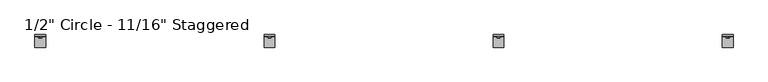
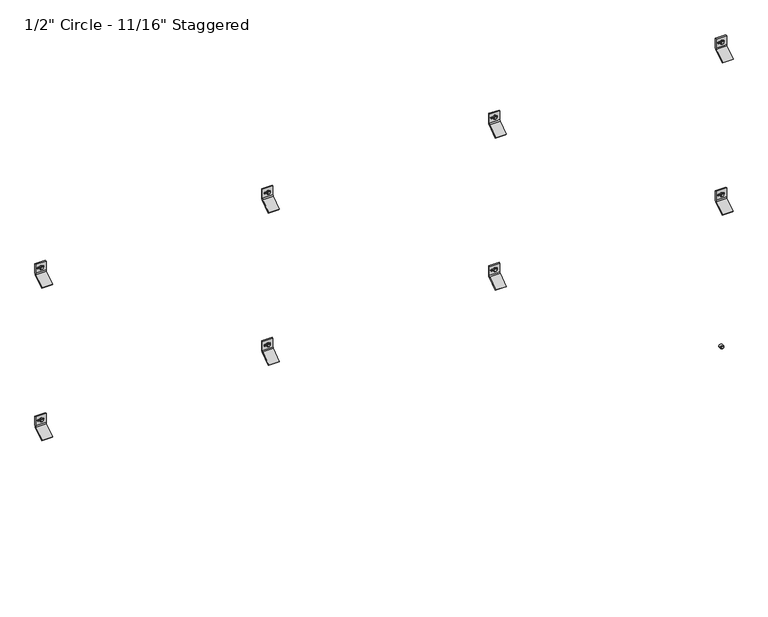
"""IFC4 building model written with IfcOpenShell, lengths in millimetres: plate geometry."""

from ifc_helpers import new_model, si_unit, point, frame, frame_2d, origin, place, context, project, spatial, polyline, circle_curve, trimmed, segment, composite_curve, outline, extrude, source, transform, mapped, element, save
from ifc_brep_helpers import plane_surface, cylinder_surface, revolved_surface, advanced_brep


def plate_a66a7d0d(model_context):
    return source(origin(), model_context, "Body", "SolidModel", [
        extrude(outline(polyline([(1923.7554341, 1230.0570034), (1919.4097216, 1232.5660017), (1919.4097216, 1237.5839983), (1923.7554341, 1240.0929966), (1928.1011466, 1237.5839983), (1928.1011466, 1232.5660017), (1923.7554341, 1230.0570034)])), frame((0.0, -58.7607779, 0.0), z_axis=(0.0, 1.0, 0.0), x_axis=(0.0, 0.0, 1.0)), (0.0, 0.0, 1.0), 11.1357779),
        extrude(outline(composite_curve([segment(trimmed(circle_curve(frame_2d((1923.8487411, 1235.075)), 6.35), [point((1923.8487411, 1241.425))], [point((1923.8487411, 1228.725))], False, "CARTESIAN"), True, "CONTINUOUS"), segment(trimmed(circle_curve(frame_2d((1923.8487411, 1235.075)), 6.35), [point((1923.8487411, 1228.725))], [point((1923.8487411, 1241.425))], False, "CARTESIAN"), True, "CONTINUOUS")], self_intersect=False)), frame((0.0, -57.0817743, 0.0), z_axis=(0.0, 1.0, 0.0), x_axis=(0.0, 0.0, 1.0)), (0.0, 0.0, 1.0), 9.4567743),
        advanced_brep(
        [(1216.025, -47.625, 1906.606122), (1216.025, -51.2819443, 1898.9440896), (1216.025, -89.5163624, 1872.1720618), (1216.025, -92.9330442, 1875.5887436), (1216.025, -54.3526876, 1902.6030001), (1216.025, -52.4002, 1906.6061929), (1216.025, -52.4002, 1940.7988072), (1216.025, -47.625, 1940.7988072), (1254.125, -47.625, 1906.606122), (1254.125, -47.625, 1940.7988072), (1254.125, -52.4002, 1940.7988072), (1254.125, -52.4002, 1906.6061929), (1254.125, -54.3526876, 1902.6030001), (1254.125, -92.9330442, 1875.5887436), (1254.125, -89.5163624, 1872.1720618), (1254.125, -51.2819443, 1898.9440896), (1241.8161889, -52.4002, 1926.753591), (1241.8161889, -52.4002, 1920.403591), (1225.5883287, -52.4002, 1920.403591), (1225.5883287, -52.4002, 1926.753591), (1241.8161889, -47.625, 1920.403591), (1241.8161889, -47.625, 1926.753591), (1225.5883287, -47.625, 1926.753591), (1225.5883287, -47.625, 1920.403591)],
        [
            (0, 1, circle_curve(frame((1216.025, -57.4802202, 1906.606122), z_axis=(-1.0, 0.0, 0.0), x_axis=(0.0, -1.0, 0.0)), 9.8552202)),
            (1, 2),
            (2, 3),
            (3, 4),
            (4, 5, circle_curve(frame((1216.025, -57.4803246, 1906.6061929), z_axis=(1.0, 0.0, 0.0), x_axis=(0.0, -1.0, 0.0)), 5.0801246)),
            (5, 6),
            (6, 7),
            (7, 0),
            (8, 9),
            (9, 10),
            (10, 11),
            (11, 12, circle_curve(frame((1254.125, -57.4803246, 1906.6061929), z_axis=(-1.0, 0.0, 0.0), x_axis=(0.0, -1.0, 0.0)), 5.0801246)),
            (12, 13),
            (13, 14),
            (14, 15),
            (15, 8, circle_curve(frame((1254.125, -57.4802202, 1906.606122), z_axis=(1.0, 0.0, 0.0), x_axis=(0.0, -1.0, 0.0)), 9.8552202)),
            (4, 12),
            (11, 5),
            (10, 6),
            (16, 17, circle_curve(frame((1241.8161889, -52.4002, 1923.578591), z_axis=(0.0, 1.0, 0.0), x_axis=(0.0, 0.0, -1.0)), 3.175)),
            (17, 18),
            (18, 19, circle_curve(frame((1225.5883287, -52.4002, 1923.578591), z_axis=(0.0, 1.0, 0.0), x_axis=(0.0, 0.0, -1.0)), 3.175)),
            (19, 16),
            (9, 7),
            (8, 0),
            (20, 21, circle_curve(frame((1241.8161889, -47.625, 1923.578591), z_axis=(0.0, -1.0, 0.0), x_axis=(0.0, 0.0, -1.0)), 3.175)),
            (21, 22),
            (22, 23, circle_curve(frame((1225.5883287, -47.625, 1923.578591), z_axis=(0.0, -1.0, 0.0), x_axis=(0.0, 0.0, -1.0)), 3.175)),
            (23, 20),
            (15, 1),
            (20, 17),
            (16, 21),
            (19, 22),
            (18, 23),
            (14, 2),
            (13, 3),
        ],
        [
            plane_surface(frame((1216.025, -67.3354404, 1906.606122), z_axis=(-1.0, 0.0, 0.0), x_axis=(0.0, 0.0, 1.0))),
            plane_surface(frame((1254.125, -67.3354404, 1906.606122), z_axis=(1.0, 0.0, 0.0), x_axis=(0.0, 0.0, -1.0))),
            revolved_surface(polyline([(1254.125, -62.5604492, 1906.6061929), (1216.025, -62.5604492, 1906.6061929)]), (1254.125, -57.4803246, 1906.6061929), (1.0, 0.0, 0.0)),
            plane_surface(frame((1216.025, -52.4002, 1906.6061929), z_axis=(0.0, -1.0, 0.0), x_axis=(1.0, 0.0, 0.0))),
            plane_surface(frame((1216.025, -52.4002, 1940.7988072), z_axis=(0.0, 0.0, 1.0), x_axis=(1.0, 0.0, 0.0))),
            plane_surface(frame((1216.025, -47.625, 1940.7988072), z_axis=(0.0, 1.0, 6.99569853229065e-12), x_axis=(1.0, 0.0, 0.0))),
            cylinder_surface(frame((1254.125, -57.4802202, 1906.606122), z_axis=(-1.0, 0.0, 0.0), x_axis=(0.0, -1.0, 0.0)), 9.8552202),
            revolved_surface(polyline([(1241.8161889, -52.4002, 1920.403591), (1241.8161889, -47.625, 1920.403591)]), (1241.8161889, -25.6669948, 1923.578591), (0.0, -1.0, 0.0)),
            plane_surface(frame((1241.8161889, -86.677982, 1926.753591), z_axis=(0.0, 0.0, -1.0), x_axis=(0.0, 1.0, 0.0))),
            revolved_surface(polyline([(1225.5883287, -52.4002, 1920.403591), (1225.5883287, -47.625, 1920.403591)]), (1225.5883287, -25.6669948, 1923.578591), (0.0, -1.0, 0.0)),
            plane_surface(frame((1225.5883287, -86.677982, 1920.403591), z_axis=(-2.7237720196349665e-11, 0.0, 1.0), x_axis=(0.0, 1.0, 0.0))),
            plane_surface(frame((1216.025, -51.2819443, 1898.9440896), z_axis=(0.0, 0.5735764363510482, -0.8191520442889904), x_axis=(1.0, 0.0, 0.0))),
            plane_surface(frame((1216.025, -89.5163624, 1872.1720618), z_axis=(0.0, -0.7071067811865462, -0.7071067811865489), x_axis=(1.0, 0.0, 0.0))),
            plane_surface(frame((1216.025, -92.9330442, 1875.5887436), z_axis=(0.0, -0.5735764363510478, 0.8191520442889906), x_axis=(1.0, 0.0, 0.0))),
        ],
        [
            (0, [[1, 2, 3, 4, 5, 6, 7, 8]]),
            (1, [[9, 10, 11, 12, 13, 14, 15, 16]]),
            (2, [[-5, 17, -12, 18]]),
            (3, [[-6, -18, -11, 19], [20, 21, 22, 23]]),
            (4, [[-7, -19, -10, 24]]),
            (5, [[-8, -24, -9, 25], [26, 27, 28, 29]]),
            (6, [[-1, -25, -16, 30]]),
            (7, [[31, -20, 32, -26]]),
            (8, [[-32, -23, 33, -27]]),
            (9, [[-33, -22, 34, -28]]),
            (10, [[-31, -29, -34, -21]]),
            (11, [[-2, -30, -15, 35]]),
            (12, [[-3, -35, -14, 36]]),
            (13, [[-4, -36, -13, -17]]),
        ],
    ),
        extrude(outline(polyline([(1923.7554341, 406.6736701), (1919.4097216, 409.1826684), (1919.4097216, 414.200665), (1923.7554341, 416.7096632), (1928.1011466, 414.200665), (1928.1011466, 409.1826684), (1923.7554341, 406.6736701)])), frame((0.0, -58.7607779, 0.0), z_axis=(0.0, 1.0, 0.0), x_axis=(0.0, 0.0, 1.0)), (0.0, 0.0, 1.0), 11.1357779),
        extrude(outline(composite_curve([segment(trimmed(circle_curve(frame_2d((1923.8487411, 411.6916667)), 6.35), [point((1923.8487411, 418.0416667))], [point((1923.8487411, 405.3416667))], False, "CARTESIAN"), True, "CONTINUOUS"), segment(trimmed(circle_curve(frame_2d((1923.8487411, 411.6916667)), 6.35), [point((1923.8487411, 405.3416667))], [point((1923.8487411, 418.0416667))], False, "CARTESIAN"), True, "CONTINUOUS")], self_intersect=False)), frame((0.0, -57.0817743, 0.0), z_axis=(0.0, 1.0, 0.0), x_axis=(0.0, 0.0, 1.0)), (0.0, 0.0, 1.0), 9.4567743),
        advanced_brep(
        [(392.6416667, -47.625, 1906.606122), (392.6416667, -51.2819443, 1898.9440896), (392.6416667, -89.5163624, 1872.1720618), (392.6416667, -92.9330442, 1875.5887436), (392.6416667, -54.3526876, 1902.6030001), (392.6416667, -52.4002, 1906.6061929), (392.6416667, -52.4002, 1940.7988072), (392.6416667, -47.625, 1940.7988072), (430.7416667, -47.625, 1906.606122), (430.7416667, -47.625, 1940.7988072), (430.7416667, -52.4002, 1940.7988072), (430.7416667, -52.4002, 1906.6061929), (430.7416667, -54.3526876, 1902.6030001), (430.7416667, -92.9330442, 1875.5887436), (430.7416667, -89.5163624, 1872.1720618), (430.7416667, -51.2819443, 1898.9440896), (418.4328556, -52.4002, 1926.753591), (418.4328556, -52.4002, 1920.403591), (402.2049954, -52.4002, 1920.403591), (402.2049954, -52.4002, 1926.753591), (418.4328556, -47.625, 1920.403591), (418.4328556, -47.625, 1926.753591), (402.2049954, -47.625, 1926.753591), (402.2049954, -47.625, 1920.403591)],
        [
            (0, 1, circle_curve(frame((392.6416667, -57.4802202, 1906.606122), z_axis=(-1.0, 0.0, 0.0), x_axis=(0.0, -1.0, 0.0)), 9.8552202)),
            (1, 2),
            (2, 3),
            (3, 4),
            (4, 5, circle_curve(frame((392.6416667, -57.4803246, 1906.6061929), z_axis=(1.0, 0.0, 0.0), x_axis=(0.0, -1.0, 0.0)), 5.0801246)),
            (5, 6),
            (6, 7),
            (7, 0),
            (8, 9),
            (9, 10),
            (10, 11),
            (11, 12, circle_curve(frame((430.7416667, -57.4803246, 1906.6061929), z_axis=(-1.0, 0.0, 0.0), x_axis=(0.0, -1.0, 0.0)), 5.0801246)),
            (12, 13),
            (13, 14),
            (14, 15),
            (15, 8, circle_curve(frame((430.7416667, -57.4802202, 1906.606122), z_axis=(1.0, 0.0, 0.0), x_axis=(0.0, -1.0, 0.0)), 9.8552202)),
            (4, 12),
            (11, 5),
            (10, 6),
            (16, 17, circle_curve(frame((418.4328556, -52.4002, 1923.578591), z_axis=(0.0, 1.0, 0.0), x_axis=(0.0, 0.0, -1.0)), 3.175)),
            (17, 18),
            (18, 19, circle_curve(frame((402.2049954, -52.4002, 1923.578591), z_axis=(0.0, 1.0, 0.0), x_axis=(0.0, 0.0, -1.0)), 3.175)),
            (19, 16),
            (9, 7),
            (8, 0),
            (20, 21, circle_curve(frame((418.4328556, -47.625, 1923.578591), z_axis=(0.0, -1.0, 0.0), x_axis=(0.0, 0.0, -1.0)), 3.175)),
            (21, 22),
            (22, 23, circle_curve(frame((402.2049954, -47.625, 1923.578591), z_axis=(0.0, -1.0, 0.0), x_axis=(0.0, 0.0, -1.0)), 3.175)),
            (23, 20),
            (15, 1),
            (20, 17),
            (16, 21),
            (19, 22),
            (18, 23),
            (14, 2),
            (13, 3),
        ],
        [
            plane_surface(frame((392.6416667, -67.3354404, 1906.606122), z_axis=(-1.0, 0.0, 0.0), x_axis=(0.0, 0.0, 1.0))),
            plane_surface(frame((430.7416667, -67.3354404, 1906.606122), z_axis=(1.0, 0.0, 0.0), x_axis=(0.0, 0.0, -1.0))),
            revolved_surface(polyline([(430.7416667, -62.5604492, 1906.6061929), (392.6416667, -62.5604492, 1906.6061929)]), (430.7416667, -57.4803246, 1906.6061929), (1.0, 0.0, 0.0)),
            plane_surface(frame((392.6416667, -52.4002, 1906.6061929), z_axis=(0.0, -1.0, 0.0), x_axis=(1.0, 0.0, 0.0))),
            plane_surface(frame((392.6416667, -52.4002, 1940.7988072), z_axis=(0.0, 0.0, 1.0), x_axis=(1.0, 0.0, 0.0))),
            plane_surface(frame((392.6416667, -47.625, 1940.7988072), z_axis=(0.0, 1.0, 6.99569853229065e-12), x_axis=(1.0, 0.0, 0.0))),
            cylinder_surface(frame((430.7416667, -57.4802202, 1906.606122), z_axis=(-1.0, 0.0, 0.0), x_axis=(0.0, -1.0, 0.0)), 9.8552202),
            revolved_surface(polyline([(418.4328556, -52.4002, 1920.403591), (418.4328556, -47.625, 1920.403591)]), (418.4328556, -25.6669948, 1923.578591), (0.0, -1.0, 0.0)),
            plane_surface(frame((418.4328556, -86.677982, 1926.753591), z_axis=(0.0, 0.0, -1.0), x_axis=(0.0, 1.0, 0.0))),
            revolved_surface(polyline([(402.2049954, -52.4002, 1920.403591), (402.2049954, -47.625, 1920.403591)]), (402.2049954, -25.6669948, 1923.578591), (0.0, -1.0, 0.0)),
            plane_surface(frame((402.2049954, -86.677982, 1920.403591), z_axis=(-2.7237720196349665e-11, 0.0, 1.0), x_axis=(0.0, 1.0, 0.0))),
            plane_surface(frame((392.6416667, -51.2819443, 1898.9440896), z_axis=(0.0, 0.5735764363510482, -0.8191520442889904), x_axis=(1.0, 0.0, 0.0))),
            plane_surface(frame((392.6416667, -89.5163624, 1872.1720618), z_axis=(0.0, -0.7071067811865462, -0.7071067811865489), x_axis=(1.0, 0.0, 0.0))),
            plane_surface(frame((392.6416667, -92.9330442, 1875.5887436), z_axis=(0.0, -0.5735764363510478, 0.8191520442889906), x_axis=(1.0, 0.0, 0.0))),
        ],
        [
            (0, [[1, 2, 3, 4, 5, 6, 7, 8]]),
            (1, [[9, 10, 11, 12, 13, 14, 15, 16]]),
            (2, [[-5, 17, -12, 18]]),
            (3, [[-6, -18, -11, 19], [20, 21, 22, 23]]),
            (4, [[-7, -19, -10, 24]]),
            (5, [[-8, -24, -9, 25], [26, 27, 28, 29]]),
            (6, [[-1, -25, -16, 30]]),
            (7, [[31, -20, 32, -26]]),
            (8, [[-32, -23, 33, -27]]),
            (9, [[-33, -22, 34, -28]]),
            (10, [[-31, -29, -34, -21]]),
            (11, [[-2, -30, -15, 35]]),
            (12, [[-3, -35, -14, 36]]),
            (13, [[-4, -36, -13, -17]]),
        ],
    ),
        extrude(outline(polyline([(1923.7554341, -416.7096632), (1919.4097216, -414.200665), (1919.4097216, -409.1826684), (1923.7554341, -406.6736701), (1928.1011466, -409.1826684), (1928.1011466, -414.200665), (1923.7554341, -416.7096632)])), frame((0.0, -58.7607779, 0.0), z_axis=(0.0, 1.0, 0.0), x_axis=(0.0, 0.0, 1.0)), (0.0, 0.0, 1.0), 11.1357779),
        extrude(outline(composite_curve([segment(trimmed(circle_curve(frame_2d((1923.8487411, -411.6916667)), 6.35), [point((1923.8487411, -405.3416667))], [point((1923.8487411, -418.0416667))], False, "CARTESIAN"), True, "CONTINUOUS"), segment(trimmed(circle_curve(frame_2d((1923.8487411, -411.6916667)), 6.35), [point((1923.8487411, -418.0416667))], [point((1923.8487411, -405.3416667))], False, "CARTESIAN"), True, "CONTINUOUS")], self_intersect=False)), frame((0.0, -57.0817743, 0.0), z_axis=(0.0, 1.0, 0.0), x_axis=(0.0, 0.0, 1.0)), (0.0, 0.0, 1.0), 9.4567743),
        advanced_brep(
        [(-430.7416667, -47.625, 1906.606122), (-430.7416667, -51.2819443, 1898.9440896), (-430.7416667, -89.5163624, 1872.1720618), (-430.7416667, -92.9330442, 1875.5887436), (-430.7416667, -54.3526876, 1902.6030001), (-430.7416667, -52.4002, 1906.6061929), (-430.7416667, -52.4002, 1940.7988072), (-430.7416667, -47.625, 1940.7988072), (-392.6416667, -47.625, 1906.606122), (-392.6416667, -47.625, 1940.7988072), (-392.6416667, -52.4002, 1940.7988072), (-392.6416667, -52.4002, 1906.6061929), (-392.6416667, -54.3526876, 1902.6030001), (-392.6416667, -92.9330442, 1875.5887436), (-392.6416667, -89.5163624, 1872.1720618), (-392.6416667, -51.2819443, 1898.9440896), (-404.9504778, -52.4002, 1926.753591), (-404.9504778, -52.4002, 1920.403591), (-421.178338, -52.4002, 1920.403591), (-421.178338, -52.4002, 1926.753591), (-404.9504778, -47.625, 1920.403591), (-404.9504778, -47.625, 1926.753591), (-421.178338, -47.625, 1926.753591), (-421.178338, -47.625, 1920.403591)],
        [
            (0, 1, circle_curve(frame((-430.7416667, -57.4802202, 1906.606122), z_axis=(-1.0, 0.0, 0.0), x_axis=(0.0, -1.0, 0.0)), 9.8552202)),
            (1, 2),
            (2, 3),
            (3, 4),
            (4, 5, circle_curve(frame((-430.7416667, -57.4803246, 1906.6061929), z_axis=(1.0, 0.0, 0.0), x_axis=(0.0, -1.0, 0.0)), 5.0801246)),
            (5, 6),
            (6, 7),
            (7, 0),
            (8, 9),
            (9, 10),
            (10, 11),
            (11, 12, circle_curve(frame((-392.6416667, -57.4803246, 1906.6061929), z_axis=(-1.0, 0.0, 0.0), x_axis=(0.0, -1.0, 0.0)), 5.0801246)),
            (12, 13),
            (13, 14),
            (14, 15),
            (15, 8, circle_curve(frame((-392.6416667, -57.4802202, 1906.606122), z_axis=(1.0, 0.0, 0.0), x_axis=(0.0, -1.0, 0.0)), 9.8552202)),
            (4, 12),
            (11, 5),
            (10, 6),
            (16, 17, circle_curve(frame((-404.9504778, -52.4002, 1923.578591), z_axis=(0.0, 1.0, 0.0), x_axis=(0.0, 0.0, -1.0)), 3.175)),
            (17, 18),
            (18, 19, circle_curve(frame((-421.178338, -52.4002, 1923.578591), z_axis=(0.0, 1.0, 0.0), x_axis=(0.0, 0.0, -1.0)), 3.175)),
            (19, 16),
            (9, 7),
            (8, 0),
            (20, 21, circle_curve(frame((-404.9504778, -47.625, 1923.578591), z_axis=(0.0, -1.0, 0.0), x_axis=(0.0, 0.0, -1.0)), 3.175)),
            (21, 22),
            (22, 23, circle_curve(frame((-421.178338, -47.625, 1923.578591), z_axis=(0.0, -1.0, 0.0), x_axis=(0.0, 0.0, -1.0)), 3.175)),
            (23, 20),
            (15, 1),
            (20, 17),
            (16, 21),
            (19, 22),
            (18, 23),
            (14, 2),
            (13, 3),
        ],
        [
            plane_surface(frame((-430.7416667, -67.3354404, 1906.606122), z_axis=(-1.0, 0.0, 0.0), x_axis=(0.0, 0.0, 1.0))),
            plane_surface(frame((-392.6416667, -67.3354404, 1906.606122), z_axis=(1.0, 0.0, 0.0), x_axis=(0.0, 0.0, -1.0))),
            revolved_surface(polyline([(-392.6416667, -62.5604492, 1906.6061929), (-430.7416667, -62.5604492, 1906.6061929)]), (-392.6416667, -57.4803246, 1906.6061929), (1.0, 0.0, 0.0)),
            plane_surface(frame((-430.7416667, -52.4002, 1906.6061929), z_axis=(0.0, -1.0, 0.0), x_axis=(1.0, 0.0, 0.0))),
            plane_surface(frame((-430.7416667, -52.4002, 1940.7988072), z_axis=(0.0, 0.0, 1.0), x_axis=(1.0, 0.0, 0.0))),
            plane_surface(frame((-430.7416667, -47.625, 1940.7988072), z_axis=(0.0, 1.0, 6.99569853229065e-12), x_axis=(1.0, 0.0, 0.0))),
            cylinder_surface(frame((-392.6416667, -57.4802202, 1906.606122), z_axis=(-1.0, 0.0, 0.0), x_axis=(0.0, -1.0, 0.0)), 9.8552202),
            revolved_surface(polyline([(-404.9504778, -52.4002, 1920.403591), (-404.9504778, -47.625, 1920.403591)]), (-404.9504778, -25.6669948, 1923.578591), (0.0, -1.0, 0.0)),
            plane_surface(frame((-404.9504778, -86.677982, 1926.753591), z_axis=(0.0, 0.0, -1.0), x_axis=(0.0, 1.0, 0.0))),
            revolved_surface(polyline([(-421.178338, -52.4002, 1920.403591), (-421.178338, -47.625, 1920.403591)]), (-421.178338, -25.6669948, 1923.578591), (0.0, -1.0, 0.0)),
            plane_surface(frame((-421.178338, -86.677982, 1920.403591), z_axis=(-2.7237720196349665e-11, 0.0, 1.0), x_axis=(0.0, 1.0, 0.0))),
            plane_surface(frame((-430.7416667, -51.2819443, 1898.9440896), z_axis=(0.0, 0.5735764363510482, -0.8191520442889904), x_axis=(1.0, 0.0, 0.0))),
            plane_surface(frame((-430.7416667, -89.5163624, 1872.1720618), z_axis=(0.0, -0.7071067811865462, -0.7071067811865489), x_axis=(1.0, 0.0, 0.0))),
            plane_surface(frame((-430.7416667, -92.9330442, 1875.5887436), z_axis=(0.0, -0.5735764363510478, 0.8191520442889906), x_axis=(1.0, 0.0, 0.0))),
        ],
        [
            (0, [[1, 2, 3, 4, 5, 6, 7, 8]]),
            (1, [[9, 10, 11, 12, 13, 14, 15, 16]]),
            (2, [[-5, 17, -12, 18]]),
            (3, [[-6, -18, -11, 19], [20, 21, 22, 23]]),
            (4, [[-7, -19, -10, 24]]),
            (5, [[-8, -24, -9, 25], [26, 27, 28, 29]]),
            (6, [[-1, -25, -16, 30]]),
            (7, [[31, -20, 32, -26]]),
            (8, [[-32, -23, 33, -27]]),
            (9, [[-33, -22, 34, -28]]),
            (10, [[-31, -29, -34, -21]]),
            (11, [[-2, -30, -15, 35]]),
            (12, [[-3, -35, -14, 36]]),
            (13, [[-4, -36, -13, -17]]),
        ],
    ),
        extrude(outline(polyline([(1923.7554341, -1240.0929966), (1919.4097216, -1237.5839983), (1919.4097216, -1232.5660017), (1923.7554341, -1230.0570034), (1928.1011466, -1232.5660017), (1928.1011466, -1237.5839983), (1923.7554341, -1240.0929966)])), frame((0.0, -58.7607779, 0.0), z_axis=(0.0, 1.0, 0.0), x_axis=(0.0, 0.0, 1.0)), (0.0, 0.0, 1.0), 11.1357779),
        extrude(outline(composite_curve([segment(trimmed(circle_curve(frame_2d((1923.8487411, -1235.075)), 6.35), [point((1923.8487411, -1228.725))], [point((1923.8487411, -1241.425))], False, "CARTESIAN"), True, "CONTINUOUS"), segment(trimmed(circle_curve(frame_2d((1923.8487411, -1235.075)), 6.35), [point((1923.8487411, -1241.425))], [point((1923.8487411, -1228.725))], False, "CARTESIAN"), True, "CONTINUOUS")], self_intersect=False)), frame((0.0, -57.0817743, 0.0), z_axis=(0.0, 1.0, 0.0), x_axis=(0.0, 0.0, 1.0)), (0.0, 0.0, 1.0), 9.4567743),
        advanced_brep(
        [(-1254.125, -47.625, 1906.606122), (-1254.125, -51.2819443, 1898.9440896), (-1254.125, -89.5163624, 1872.1720618), (-1254.125, -92.9330442, 1875.5887436), (-1254.125, -54.3526876, 1902.6030001), (-1254.125, -52.4002, 1906.6061929), (-1254.125, -52.4002, 1940.7988072), (-1254.125, -47.625, 1940.7988072), (-1216.025, -47.625, 1906.606122), (-1216.025, -47.625, 1940.7988072), (-1216.025, -52.4002, 1940.7988072), (-1216.025, -52.4002, 1906.6061929), (-1216.025, -54.3526876, 1902.6030001), (-1216.025, -92.9330442, 1875.5887436), (-1216.025, -89.5163624, 1872.1720618), (-1216.025, -51.2819443, 1898.9440896), (-1228.3338111, -52.4002, 1926.753591), (-1228.3338111, -52.4002, 1920.403591), (-1244.5616713, -52.4002, 1920.403591), (-1244.5616713, -52.4002, 1926.753591), (-1228.3338111, -47.625, 1920.403591), (-1228.3338111, -47.625, 1926.753591), (-1244.5616713, -47.625, 1926.753591), (-1244.5616713, -47.625, 1920.403591)],
        [
            (0, 1, circle_curve(frame((-1254.125, -57.4802202, 1906.606122), z_axis=(-1.0, 0.0, 0.0), x_axis=(0.0, -1.0, 0.0)), 9.8552202)),
            (1, 2),
            (2, 3),
            (3, 4),
            (4, 5, circle_curve(frame((-1254.125, -57.4803246, 1906.6061929), z_axis=(1.0, 0.0, 0.0), x_axis=(0.0, -1.0, 0.0)), 5.0801246)),
            (5, 6),
            (6, 7),
            (7, 0),
            (8, 9),
            (9, 10),
            (10, 11),
            (11, 12, circle_curve(frame((-1216.025, -57.4803246, 1906.6061929), z_axis=(-1.0, 0.0, 0.0), x_axis=(0.0, -1.0, 0.0)), 5.0801246)),
            (12, 13),
            (13, 14),
            (14, 15),
            (15, 8, circle_curve(frame((-1216.025, -57.4802202, 1906.606122), z_axis=(1.0, 0.0, 0.0), x_axis=(0.0, -1.0, 0.0)), 9.8552202)),
            (4, 12),
            (11, 5),
            (10, 6),
            (16, 17, circle_curve(frame((-1228.3338111, -52.4002, 1923.578591), z_axis=(0.0, 1.0, 0.0), x_axis=(0.0, 0.0, -1.0)), 3.175)),
            (17, 18),
            (18, 19, circle_curve(frame((-1244.5616713, -52.4002, 1923.578591), z_axis=(0.0, 1.0, 0.0), x_axis=(0.0, 0.0, -1.0)), 3.175)),
            (19, 16),
            (9, 7),
            (8, 0),
            (20, 21, circle_curve(frame((-1228.3338111, -47.625, 1923.578591), z_axis=(0.0, -1.0, 0.0), x_axis=(0.0, 0.0, -1.0)), 3.175)),
            (21, 22),
            (22, 23, circle_curve(frame((-1244.5616713, -47.625, 1923.578591), z_axis=(0.0, -1.0, 0.0), x_axis=(0.0, 0.0, -1.0)), 3.175)),
            (23, 20),
            (15, 1),
            (20, 17),
            (16, 21),
            (19, 22),
            (18, 23),
            (14, 2),
            (13, 3),
        ],
        [
            plane_surface(frame((-1254.125, -67.3354404, 1906.606122), z_axis=(-1.0, 0.0, 0.0), x_axis=(0.0, 0.0, 1.0))),
            plane_surface(frame((-1216.025, -67.3354404, 1906.606122), z_axis=(1.0, 0.0, 0.0), x_axis=(0.0, 0.0, -1.0))),
            revolved_surface(polyline([(-1216.025, -62.5604492, 1906.6061929), (-1254.125, -62.5604492, 1906.6061929)]), (-1216.025, -57.4803246, 1906.6061929), (1.0, 0.0, 0.0)),
            plane_surface(frame((-1254.125, -52.4002, 1906.6061929), z_axis=(0.0, -1.0, 0.0), x_axis=(1.0, 0.0, 0.0))),
            plane_surface(frame((-1254.125, -52.4002, 1940.7988072), z_axis=(0.0, 0.0, 1.0), x_axis=(1.0, 0.0, 0.0))),
            plane_surface(frame((-1254.125, -47.625, 1940.7988072), z_axis=(0.0, 1.0, 6.99569853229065e-12), x_axis=(1.0, 0.0, 0.0))),
            cylinder_surface(frame((-1216.025, -57.4802202, 1906.606122), z_axis=(-1.0, 0.0, 0.0), x_axis=(0.0, -1.0, 0.0)), 9.8552202),
            revolved_surface(polyline([(-1228.3338111, -52.4002, 1920.403591), (-1228.3338111, -47.625, 1920.403591)]), (-1228.3338111, -25.6669948, 1923.578591), (0.0, -1.0, 0.0)),
            plane_surface(frame((-1228.3338111, -86.677982, 1926.753591), z_axis=(0.0, 0.0, -1.0), x_axis=(0.0, 1.0, 0.0))),
            revolved_surface(polyline([(-1244.5616713, -52.4002, 1920.403591), (-1244.5616713, -47.625, 1920.403591)]), (-1244.5616713, -25.6669948, 1923.578591), (0.0, -1.0, 0.0)),
            plane_surface(frame((-1244.5616713, -86.677982, 1920.403591), z_axis=(-2.7237720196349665e-11, 0.0, 1.0), x_axis=(0.0, 1.0, 0.0))),
            plane_surface(frame((-1254.125, -51.2819443, 1898.9440896), z_axis=(0.0, 0.5735764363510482, -0.8191520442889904), x_axis=(1.0, 0.0, 0.0))),
            plane_surface(frame((-1254.125, -89.5163624, 1872.1720618), z_axis=(0.0, -0.7071067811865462, -0.7071067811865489), x_axis=(1.0, 0.0, 0.0))),
            plane_surface(frame((-1254.125, -92.9330442, 1875.5887436), z_axis=(0.0, -0.5735764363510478, 0.8191520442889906), x_axis=(1.0, 0.0, 0.0))),
        ],
        [
            (0, [[1, 2, 3, 4, 5, 6, 7, 8]]),
            (1, [[9, 10, 11, 12, 13, 14, 15, 16]]),
            (2, [[-5, 17, -12, 18]]),
            (3, [[-6, -18, -11, 19], [20, 21, 22, 23]]),
            (4, [[-7, -19, -10, 24]]),
            (5, [[-8, -24, -9, 25], [26, 27, 28, 29]]),
            (6, [[-1, -25, -16, 30]]),
            (7, [[31, -20, 32, -26]]),
            (8, [[-32, -23, 33, -27]]),
            (9, [[-33, -22, 34, -28]]),
            (10, [[-31, -29, -34, -21]]),
            (11, [[-2, -30, -15, 35]]),
            (12, [[-3, -35, -14, 36]]),
            (13, [[-4, -36, -13, -17]]),
        ],
    ),
        extrude(outline(polyline([(1339.1301335, 1230.0570034), (1334.784421, 1232.5660017), (1334.784421, 1237.5839983), (1339.1301335, 1240.0929966), (1343.475846, 1237.5839983), (1343.475846, 1232.5660017), (1339.1301335, 1230.0570034)])), frame((0.0, -58.7607779, 0.0), z_axis=(0.0, 1.0, 0.0), x_axis=(0.0, 0.0, 1.0)), (0.0, 0.0, 1.0), 11.1357779),
        extrude(outline(composite_curve([segment(trimmed(circle_curve(frame_2d((1339.2234405, 1235.075)), 6.35), [point((1339.2234405, 1241.425))], [point((1339.2234405, 1228.725))], False, "CARTESIAN"), True, "CONTINUOUS"), segment(trimmed(circle_curve(frame_2d((1339.2234405, 1235.075)), 6.35), [point((1339.2234405, 1228.725))], [point((1339.2234405, 1241.425))], False, "CARTESIAN"), True, "CONTINUOUS")], self_intersect=False)), frame((0.0, -57.0817743, 0.0), z_axis=(0.0, 1.0, 0.0), x_axis=(0.0, 0.0, 1.0)), (0.0, 0.0, 1.0), 9.4567743),
        advanced_brep(
        [(1216.025, -47.625, 1321.9808214), (1216.025, -51.2819443, 1314.318789), (1216.025, -89.5163624, 1287.5467612), (1216.025, -92.9330442, 1290.963443), (1216.025, -54.3526876, 1317.9776995), (1216.025, -52.4002, 1321.9808923), (1216.025, -52.4002, 1356.1735066), (1216.025, -47.625, 1356.1735066), (1254.125, -47.625, 1321.9808214), (1254.125, -47.625, 1356.1735066), (1254.125, -52.4002, 1356.1735066), (1254.125, -52.4002, 1321.9808923), (1254.125, -54.3526876, 1317.9776995), (1254.125, -92.9330442, 1290.963443), (1254.125, -89.5163624, 1287.5467612), (1254.125, -51.2819443, 1314.318789), (1241.8161889, -52.4002, 1342.1282903), (1241.8161889, -52.4002, 1335.7782903), (1225.5883287, -52.4002, 1335.7782903), (1225.5883287, -52.4002, 1342.1282903), (1241.8161889, -47.625, 1335.7782903), (1241.8161889, -47.625, 1342.1282903), (1225.5883287, -47.625, 1342.1282903), (1225.5883287, -47.625, 1335.7782903)],
        [
            (0, 1, circle_curve(frame((1216.025, -57.4802202, 1321.9808214), z_axis=(-1.0, 0.0, 0.0), x_axis=(0.0, -1.0, 0.0)), 9.8552202)),
            (1, 2),
            (2, 3),
            (3, 4),
            (4, 5, circle_curve(frame((1216.025, -57.4803246, 1321.9808923), z_axis=(1.0, 0.0, 0.0), x_axis=(0.0, -1.0, 0.0)), 5.0801246)),
            (5, 6),
            (6, 7),
            (7, 0),
            (8, 9),
            (9, 10),
            (10, 11),
            (11, 12, circle_curve(frame((1254.125, -57.4803246, 1321.9808923), z_axis=(-1.0, 0.0, 0.0), x_axis=(0.0, -1.0, 0.0)), 5.0801246)),
            (12, 13),
            (13, 14),
            (14, 15),
            (15, 8, circle_curve(frame((1254.125, -57.4802202, 1321.9808214), z_axis=(1.0, 0.0, 0.0), x_axis=(0.0, -1.0, 0.0)), 9.8552202)),
            (4, 12),
            (11, 5),
            (10, 6),
            (16, 17, circle_curve(frame((1241.8161889, -52.4002, 1338.9532903), z_axis=(0.0, 1.0, 0.0), x_axis=(0.0, 0.0, -1.0)), 3.175)),
            (17, 18),
            (18, 19, circle_curve(frame((1225.5883287, -52.4002, 1338.9532903), z_axis=(0.0, 1.0, 0.0), x_axis=(0.0, 0.0, -1.0)), 3.175)),
            (19, 16),
            (9, 7),
            (8, 0),
            (20, 21, circle_curve(frame((1241.8161889, -47.625, 1338.9532903), z_axis=(0.0, -1.0, 0.0), x_axis=(0.0, 0.0, -1.0)), 3.175)),
            (21, 22),
            (22, 23, circle_curve(frame((1225.5883287, -47.625, 1338.9532903), z_axis=(0.0, -1.0, 0.0), x_axis=(0.0, 0.0, -1.0)), 3.175)),
            (23, 20),
            (15, 1),
            (20, 17),
            (16, 21),
            (19, 22),
            (18, 23),
            (14, 2),
            (13, 3),
        ],
        [
            plane_surface(frame((1216.025, -67.3354404, 1321.9808214), z_axis=(-1.0, 0.0, 0.0), x_axis=(0.0, 0.0, 1.0))),
            plane_surface(frame((1254.125, -67.3354404, 1321.9808214), z_axis=(1.0, 0.0, 0.0), x_axis=(0.0, 0.0, -1.0))),
            revolved_surface(polyline([(1254.125, -62.5604492, 1321.9808923), (1216.025, -62.5604492, 1321.9808923)]), (1254.125, -57.4803246, 1321.9808923), (1.0, 0.0, 0.0)),
            plane_surface(frame((1216.025, -52.4002, 1321.9808923), z_axis=(0.0, -1.0, 0.0), x_axis=(1.0, 0.0, 0.0))),
            plane_surface(frame((1216.025, -52.4002, 1356.1735066), z_axis=(0.0, 0.0, 1.0), x_axis=(1.0, 0.0, 0.0))),
            plane_surface(frame((1216.025, -47.625, 1356.1735066), z_axis=(0.0, 1.0, 6.99569853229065e-12), x_axis=(1.0, 0.0, 0.0))),
            cylinder_surface(frame((1254.125, -57.4802202, 1321.9808214), z_axis=(-1.0, 0.0, 0.0), x_axis=(0.0, -1.0, 0.0)), 9.8552202),
            revolved_surface(polyline([(1241.8161889, -52.4002, 1335.7782903), (1241.8161889, -47.625, 1335.7782903)]), (1241.8161889, -25.6669948, 1338.9532903), (0.0, -1.0, 0.0)),
            plane_surface(frame((1241.8161889, -86.677982, 1342.1282903), z_axis=(0.0, 0.0, -1.0), x_axis=(0.0, 1.0, 0.0))),
            revolved_surface(polyline([(1225.5883287, -52.4002, 1335.7782903), (1225.5883287, -47.625, 1335.7782903)]), (1225.5883287, -25.6669948, 1338.9532903), (0.0, -1.0, 0.0)),
            plane_surface(frame((1225.5883287, -86.677982, 1335.7782903), z_axis=(-2.7237766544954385e-11, 0.0, 1.0), x_axis=(0.0, 1.0, 0.0))),
            plane_surface(frame((1216.025, -51.2819443, 1314.318789), z_axis=(0.0, 0.5735764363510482, -0.8191520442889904), x_axis=(1.0, 0.0, 0.0))),
            plane_surface(frame((1216.025, -89.5163624, 1287.5467612), z_axis=(0.0, -0.7071067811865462, -0.7071067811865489), x_axis=(1.0, 0.0, 0.0))),
            plane_surface(frame((1216.025, -92.9330442, 1290.963443), z_axis=(0.0, -0.5735764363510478, 0.8191520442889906), x_axis=(1.0, 0.0, 0.0))),
        ],
        [
            (0, [[1, 2, 3, 4, 5, 6, 7, 8]]),
            (1, [[9, 10, 11, 12, 13, 14, 15, 16]]),
            (2, [[-5, 17, -12, 18]]),
            (3, [[-6, -18, -11, 19], [20, 21, 22, 23]]),
            (4, [[-7, -19, -10, 24]]),
            (5, [[-8, -24, -9, 25], [26, 27, 28, 29]]),
            (6, [[-1, -25, -16, 30]]),
            (7, [[31, -20, 32, -26]]),
            (8, [[-32, -23, 33, -27]]),
            (9, [[-33, -22, 34, -28]]),
            (10, [[-31, -29, -34, -21]]),
            (11, [[-2, -30, -15, 35]]),
            (12, [[-3, -35, -14, 36]]),
            (13, [[-4, -36, -13, -17]]),
        ],
    ),
        extrude(outline(polyline([(1339.1301335, 406.6736701), (1334.784421, 409.1826684), (1334.784421, 414.200665), (1339.1301335, 416.7096632), (1343.475846, 414.200665), (1343.475846, 409.1826684), (1339.1301335, 406.6736701)])), frame((0.0, -58.7607779, 0.0), z_axis=(0.0, 1.0, 0.0), x_axis=(0.0, 0.0, 1.0)), (0.0, 0.0, 1.0), 11.1357779),
        extrude(outline(composite_curve([segment(trimmed(circle_curve(frame_2d((1339.2234405, 411.6916667)), 6.35), [point((1339.2234405, 418.0416667))], [point((1339.2234405, 405.3416667))], False, "CARTESIAN"), True, "CONTINUOUS"), segment(trimmed(circle_curve(frame_2d((1339.2234405, 411.6916667)), 6.35), [point((1339.2234405, 405.3416667))], [point((1339.2234405, 418.0416667))], False, "CARTESIAN"), True, "CONTINUOUS")], self_intersect=False)), frame((0.0, -57.0817743, 0.0), z_axis=(0.0, 1.0, 0.0), x_axis=(0.0, 0.0, 1.0)), (0.0, 0.0, 1.0), 9.4567743),
        advanced_brep(
        [(392.6416667, -47.625, 1321.9808214), (392.6416667, -51.2819443, 1314.318789), (392.6416667, -89.5163624, 1287.5467612), (392.6416667, -92.9330442, 1290.963443), (392.6416667, -54.3526876, 1317.9776995), (392.6416667, -52.4002, 1321.9808923), (392.6416667, -52.4002, 1356.1735066), (392.6416667, -47.625, 1356.1735066), (430.7416667, -47.625, 1321.9808214), (430.7416667, -47.625, 1356.1735066), (430.7416667, -52.4002, 1356.1735066), (430.7416667, -52.4002, 1321.9808923), (430.7416667, -54.3526876, 1317.9776995), (430.7416667, -92.9330442, 1290.963443), (430.7416667, -89.5163624, 1287.5467612), (430.7416667, -51.2819443, 1314.318789), (418.4328556, -52.4002, 1342.1282903), (418.4328556, -52.4002, 1335.7782903), (402.2049954, -52.4002, 1335.7782903), (402.2049954, -52.4002, 1342.1282903), (418.4328556, -47.625, 1335.7782903), (418.4328556, -47.625, 1342.1282903), (402.2049954, -47.625, 1342.1282903), (402.2049954, -47.625, 1335.7782903)],
        [
            (0, 1, circle_curve(frame((392.6416667, -57.4802202, 1321.9808214), z_axis=(-1.0, 0.0, 0.0), x_axis=(0.0, -1.0, 0.0)), 9.8552202)),
            (1, 2),
            (2, 3),
            (3, 4),
            (4, 5, circle_curve(frame((392.6416667, -57.4803246, 1321.9808923), z_axis=(1.0, 0.0, 0.0), x_axis=(0.0, -1.0, 0.0)), 5.0801246)),
            (5, 6),
            (6, 7),
            (7, 0),
            (8, 9),
            (9, 10),
            (10, 11),
            (11, 12, circle_curve(frame((430.7416667, -57.4803246, 1321.9808923), z_axis=(-1.0, 0.0, 0.0), x_axis=(0.0, -1.0, 0.0)), 5.0801246)),
            (12, 13),
            (13, 14),
            (14, 15),
            (15, 8, circle_curve(frame((430.7416667, -57.4802202, 1321.9808214), z_axis=(1.0, 0.0, 0.0), x_axis=(0.0, -1.0, 0.0)), 9.8552202)),
            (4, 12),
            (11, 5),
            (10, 6),
            (16, 17, circle_curve(frame((418.4328556, -52.4002, 1338.9532903), z_axis=(0.0, 1.0, 0.0), x_axis=(0.0, 0.0, -1.0)), 3.175)),
            (17, 18),
            (18, 19, circle_curve(frame((402.2049954, -52.4002, 1338.9532903), z_axis=(0.0, 1.0, 0.0), x_axis=(0.0, 0.0, -1.0)), 3.175)),
            (19, 16),
            (9, 7),
            (8, 0),
            (20, 21, circle_curve(frame((418.4328556, -47.625, 1338.9532903), z_axis=(0.0, -1.0, 0.0), x_axis=(0.0, 0.0, -1.0)), 3.175)),
            (21, 22),
            (22, 23, circle_curve(frame((402.2049954, -47.625, 1338.9532903), z_axis=(0.0, -1.0, 0.0), x_axis=(0.0, 0.0, -1.0)), 3.175)),
            (23, 20),
            (15, 1),
            (20, 17),
            (16, 21),
            (19, 22),
            (18, 23),
            (14, 2),
            (13, 3),
        ],
        [
            plane_surface(frame((392.6416667, -67.3354404, 1321.9808214), z_axis=(-1.0, 0.0, 0.0), x_axis=(0.0, 0.0, 1.0))),
            plane_surface(frame((430.7416667, -67.3354404, 1321.9808214), z_axis=(1.0, 0.0, 0.0), x_axis=(0.0, 0.0, -1.0))),
            revolved_surface(polyline([(430.7416667, -62.5604492, 1321.9808923), (392.6416667, -62.5604492, 1321.9808923)]), (430.7416667, -57.4803246, 1321.9808923), (1.0, 0.0, 0.0)),
            plane_surface(frame((392.6416667, -52.4002, 1321.9808923), z_axis=(0.0, -1.0, 0.0), x_axis=(1.0, 0.0, 0.0))),
            plane_surface(frame((392.6416667, -52.4002, 1356.1735066), z_axis=(0.0, 0.0, 1.0), x_axis=(1.0, 0.0, 0.0))),
            plane_surface(frame((392.6416667, -47.625, 1356.1735066), z_axis=(0.0, 1.0, 6.99569853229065e-12), x_axis=(1.0, 0.0, 0.0))),
            cylinder_surface(frame((430.7416667, -57.4802202, 1321.9808214), z_axis=(-1.0, 0.0, 0.0), x_axis=(0.0, -1.0, 0.0)), 9.8552202),
            revolved_surface(polyline([(418.4328556, -52.4002, 1335.7782903), (418.4328556, -47.625, 1335.7782903)]), (418.4328556, -25.6669948, 1338.9532903), (0.0, -1.0, 0.0)),
            plane_surface(frame((418.4328556, -86.677982, 1342.1282903), z_axis=(0.0, 0.0, -1.0), x_axis=(0.0, 1.0, 0.0))),
            revolved_surface(polyline([(402.2049954, -52.4002, 1335.7782903), (402.2049954, -47.625, 1335.7782903)]), (402.2049954, -25.6669948, 1338.9532903), (0.0, -1.0, 0.0)),
            plane_surface(frame((402.2049954, -86.677982, 1335.7782903), z_axis=(-2.7237766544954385e-11, 0.0, 1.0), x_axis=(0.0, 1.0, 0.0))),
            plane_surface(frame((392.6416667, -51.2819443, 1314.318789), z_axis=(0.0, 0.5735764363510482, -0.8191520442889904), x_axis=(1.0, 0.0, 0.0))),
            plane_surface(frame((392.6416667, -89.5163624, 1287.5467612), z_axis=(0.0, -0.7071067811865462, -0.7071067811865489), x_axis=(1.0, 0.0, 0.0))),
            plane_surface(frame((392.6416667, -92.9330442, 1290.963443), z_axis=(0.0, -0.5735764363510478, 0.8191520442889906), x_axis=(1.0, 0.0, 0.0))),
        ],
        [
            (0, [[1, 2, 3, 4, 5, 6, 7, 8]]),
            (1, [[9, 10, 11, 12, 13, 14, 15, 16]]),
            (2, [[-5, 17, -12, 18]]),
            (3, [[-6, -18, -11, 19], [20, 21, 22, 23]]),
            (4, [[-7, -19, -10, 24]]),
            (5, [[-8, -24, -9, 25], [26, 27, 28, 29]]),
            (6, [[-1, -25, -16, 30]]),
            (7, [[31, -20, 32, -26]]),
            (8, [[-32, -23, 33, -27]]),
            (9, [[-33, -22, 34, -28]]),
            (10, [[-31, -29, -34, -21]]),
            (11, [[-2, -30, -15, 35]]),
            (12, [[-3, -35, -14, 36]]),
            (13, [[-4, -36, -13, -17]]),
        ],
    ),
        extrude(outline(polyline([(1339.1301335, -416.7096632), (1334.784421, -414.200665), (1334.784421, -409.1826684), (1339.1301335, -406.6736701), (1343.475846, -409.1826684), (1343.475846, -414.200665), (1339.1301335, -416.7096632)])), frame((0.0, -58.7607779, 0.0), z_axis=(0.0, 1.0, 0.0), x_axis=(0.0, 0.0, 1.0)), (0.0, 0.0, 1.0), 11.1357779),
        extrude(outline(composite_curve([segment(trimmed(circle_curve(frame_2d((1339.2234405, -411.6916667)), 6.35), [point((1339.2234405, -405.3416667))], [point((1339.2234405, -418.0416667))], False, "CARTESIAN"), True, "CONTINUOUS"), segment(trimmed(circle_curve(frame_2d((1339.2234405, -411.6916667)), 6.35), [point((1339.2234405, -418.0416667))], [point((1339.2234405, -405.3416667))], False, "CARTESIAN"), True, "CONTINUOUS")], self_intersect=False)), frame((0.0, -57.0817743, 0.0), z_axis=(0.0, 1.0, 0.0), x_axis=(0.0, 0.0, 1.0)), (0.0, 0.0, 1.0), 9.4567743),
        advanced_brep(
        [(-430.7416667, -47.625, 1321.9808214), (-430.7416667, -51.2819443, 1314.318789), (-430.7416667, -89.5163624, 1287.5467612), (-430.7416667, -92.9330442, 1290.963443), (-430.7416667, -54.3526876, 1317.9776995), (-430.7416667, -52.4002, 1321.9808923), (-430.7416667, -52.4002, 1356.1735066), (-430.7416667, -47.625, 1356.1735066), (-392.6416667, -47.625, 1321.9808214), (-392.6416667, -47.625, 1356.1735066), (-392.6416667, -52.4002, 1356.1735066), (-392.6416667, -52.4002, 1321.9808923), (-392.6416667, -54.3526876, 1317.9776995), (-392.6416667, -92.9330442, 1290.963443), (-392.6416667, -89.5163624, 1287.5467612), (-392.6416667, -51.2819443, 1314.318789), (-404.9504778, -52.4002, 1342.1282903), (-404.9504778, -52.4002, 1335.7782903), (-421.178338, -52.4002, 1335.7782903), (-421.178338, -52.4002, 1342.1282903), (-404.9504778, -47.625, 1335.7782903), (-404.9504778, -47.625, 1342.1282903), (-421.178338, -47.625, 1342.1282903), (-421.178338, -47.625, 1335.7782903)],
        [
            (0, 1, circle_curve(frame((-430.7416667, -57.4802202, 1321.9808214), z_axis=(-1.0, 0.0, 0.0), x_axis=(0.0, -1.0, 0.0)), 9.8552202)),
            (1, 2),
            (2, 3),
            (3, 4),
            (4, 5, circle_curve(frame((-430.7416667, -57.4803246, 1321.9808923), z_axis=(1.0, 0.0, 0.0), x_axis=(0.0, -1.0, 0.0)), 5.0801246)),
            (5, 6),
            (6, 7),
            (7, 0),
            (8, 9),
            (9, 10),
            (10, 11),
            (11, 12, circle_curve(frame((-392.6416667, -57.4803246, 1321.9808923), z_axis=(-1.0, 0.0, 0.0), x_axis=(0.0, -1.0, 0.0)), 5.0801246)),
            (12, 13),
            (13, 14),
            (14, 15),
            (15, 8, circle_curve(frame((-392.6416667, -57.4802202, 1321.9808214), z_axis=(1.0, 0.0, 0.0), x_axis=(0.0, -1.0, 0.0)), 9.8552202)),
            (4, 12),
            (11, 5),
            (10, 6),
            (16, 17, circle_curve(frame((-404.9504778, -52.4002, 1338.9532903), z_axis=(0.0, 1.0, 0.0), x_axis=(0.0, 0.0, -1.0)), 3.175)),
            (17, 18),
            (18, 19, circle_curve(frame((-421.178338, -52.4002, 1338.9532903), z_axis=(0.0, 1.0, 0.0), x_axis=(0.0, 0.0, -1.0)), 3.175)),
            (19, 16),
            (9, 7),
            (8, 0),
            (20, 21, circle_curve(frame((-404.9504778, -47.625, 1338.9532903), z_axis=(0.0, -1.0, 0.0), x_axis=(0.0, 0.0, -1.0)), 3.175)),
            (21, 22),
            (22, 23, circle_curve(frame((-421.178338, -47.625, 1338.9532903), z_axis=(0.0, -1.0, 0.0), x_axis=(0.0, 0.0, -1.0)), 3.175)),
            (23, 20),
            (15, 1),
            (20, 17),
            (16, 21),
            (19, 22),
            (18, 23),
            (14, 2),
            (13, 3),
        ],
        [
            plane_surface(frame((-430.7416667, -67.3354404, 1321.9808214), z_axis=(-1.0, 0.0, 0.0), x_axis=(0.0, 0.0, 1.0))),
            plane_surface(frame((-392.6416667, -67.3354404, 1321.9808214), z_axis=(1.0, 0.0, 0.0), x_axis=(0.0, 0.0, -1.0))),
            revolved_surface(polyline([(-392.6416667, -62.5604492, 1321.9808923), (-430.7416667, -62.5604492, 1321.9808923)]), (-392.6416667, -57.4803246, 1321.9808923), (1.0, 0.0, 0.0)),
            plane_surface(frame((-430.7416667, -52.4002, 1321.9808923), z_axis=(0.0, -1.0, 0.0), x_axis=(1.0, 0.0, 0.0))),
            plane_surface(frame((-430.7416667, -52.4002, 1356.1735066), z_axis=(0.0, 0.0, 1.0), x_axis=(1.0, 0.0, 0.0))),
            plane_surface(frame((-430.7416667, -47.625, 1356.1735066), z_axis=(0.0, 1.0, 6.99569853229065e-12), x_axis=(1.0, 0.0, 0.0))),
            cylinder_surface(frame((-392.6416667, -57.4802202, 1321.9808214), z_axis=(-1.0, 0.0, 0.0), x_axis=(0.0, -1.0, 0.0)), 9.8552202),
            revolved_surface(polyline([(-404.9504778, -52.4002, 1335.7782903), (-404.9504778, -47.625, 1335.7782903)]), (-404.9504778, -25.6669948, 1338.9532903), (0.0, -1.0, 0.0)),
            plane_surface(frame((-404.9504778, -86.677982, 1342.1282903), z_axis=(0.0, 0.0, -1.0), x_axis=(0.0, 1.0, 0.0))),
            revolved_surface(polyline([(-421.178338, -52.4002, 1335.7782903), (-421.178338, -47.625, 1335.7782903)]), (-421.178338, -25.6669948, 1338.9532903), (0.0, -1.0, 0.0)),
            plane_surface(frame((-421.178338, -86.677982, 1335.7782903), z_axis=(-2.7237766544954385e-11, 0.0, 1.0), x_axis=(0.0, 1.0, 0.0))),
            plane_surface(frame((-430.7416667, -51.2819443, 1314.318789), z_axis=(0.0, 0.5735764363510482, -0.8191520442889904), x_axis=(1.0, 0.0, 0.0))),
            plane_surface(frame((-430.7416667, -89.5163624, 1287.5467612), z_axis=(0.0, -0.7071067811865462, -0.7071067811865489), x_axis=(1.0, 0.0, 0.0))),
            plane_surface(frame((-430.7416667, -92.9330442, 1290.963443), z_axis=(0.0, -0.5735764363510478, 0.8191520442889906), x_axis=(1.0, 0.0, 0.0))),
        ],
        [
            (0, [[1, 2, 3, 4, 5, 6, 7, 8]]),
            (1, [[9, 10, 11, 12, 13, 14, 15, 16]]),
            (2, [[-5, 17, -12, 18]]),
            (3, [[-6, -18, -11, 19], [20, 21, 22, 23]]),
            (4, [[-7, -19, -10, 24]]),
            (5, [[-8, -24, -9, 25], [26, 27, 28, 29]]),
            (6, [[-1, -25, -16, 30]]),
            (7, [[31, -20, 32, -26]]),
            (8, [[-32, -23, 33, -27]]),
            (9, [[-33, -22, 34, -28]]),
            (10, [[-31, -29, -34, -21]]),
            (11, [[-2, -30, -15, 35]]),
            (12, [[-3, -35, -14, 36]]),
            (13, [[-4, -36, -13, -17]]),
        ],
    ),
        extrude(outline(polyline([(1339.1301335, -1240.0929966), (1334.784421, -1237.5839983), (1334.784421, -1232.5660017), (1339.1301335, -1230.0570034), (1343.475846, -1232.5660017), (1343.475846, -1237.5839983), (1339.1301335, -1240.0929966)])), frame((0.0, -58.7607779, 0.0), z_axis=(0.0, 1.0, 0.0), x_axis=(0.0, 0.0, 1.0)), (0.0, 0.0, 1.0), 11.1357779),
        extrude(outline(composite_curve([segment(trimmed(circle_curve(frame_2d((1339.2234405, -1235.075)), 6.35), [point((1339.2234405, -1228.725))], [point((1339.2234405, -1241.425))], False, "CARTESIAN"), True, "CONTINUOUS"), segment(trimmed(circle_curve(frame_2d((1339.2234405, -1235.075)), 6.35), [point((1339.2234405, -1241.425))], [point((1339.2234405, -1228.725))], False, "CARTESIAN"), True, "CONTINUOUS")], self_intersect=False)), frame((0.0, -57.0817743, 0.0), z_axis=(0.0, 1.0, 0.0), x_axis=(0.0, 0.0, 1.0)), (0.0, 0.0, 1.0), 9.4567743),
        advanced_brep(
        [(-1254.125, -47.625, 1321.9808214), (-1254.125, -51.2819443, 1314.318789), (-1254.125, -89.5163624, 1287.5467612), (-1254.125, -92.9330442, 1290.963443), (-1254.125, -54.3526876, 1317.9776995), (-1254.125, -52.4002, 1321.9808923), (-1254.125, -52.4002, 1356.1735066), (-1254.125, -47.625, 1356.1735066), (-1216.025, -47.625, 1321.9808214), (-1216.025, -47.625, 1356.1735066), (-1216.025, -52.4002, 1356.1735066), (-1216.025, -52.4002, 1321.9808923), (-1216.025, -54.3526876, 1317.9776995), (-1216.025, -92.9330442, 1290.963443), (-1216.025, -89.5163624, 1287.5467612), (-1216.025, -51.2819443, 1314.318789), (-1228.3338111, -52.4002, 1342.1282903), (-1228.3338111, -52.4002, 1335.7782903), (-1244.5616713, -52.4002, 1335.7782903), (-1244.5616713, -52.4002, 1342.1282903), (-1228.3338111, -47.625, 1335.7782903), (-1228.3338111, -47.625, 1342.1282903), (-1244.5616713, -47.625, 1342.1282903), (-1244.5616713, -47.625, 1335.7782903)],
        [
            (0, 1, circle_curve(frame((-1254.125, -57.4802202, 1321.9808214), z_axis=(-1.0, 0.0, 0.0), x_axis=(0.0, -1.0, 0.0)), 9.8552202)),
            (1, 2),
            (2, 3),
            (3, 4),
            (4, 5, circle_curve(frame((-1254.125, -57.4803246, 1321.9808923), z_axis=(1.0, 0.0, 0.0), x_axis=(0.0, -1.0, 0.0)), 5.0801246)),
            (5, 6),
            (6, 7),
            (7, 0),
            (8, 9),
            (9, 10),
            (10, 11),
            (11, 12, circle_curve(frame((-1216.025, -57.4803246, 1321.9808923), z_axis=(-1.0, 0.0, 0.0), x_axis=(0.0, -1.0, 0.0)), 5.0801246)),
            (12, 13),
            (13, 14),
            (14, 15),
            (15, 8, circle_curve(frame((-1216.025, -57.4802202, 1321.9808214), z_axis=(1.0, 0.0, 0.0), x_axis=(0.0, -1.0, 0.0)), 9.8552202)),
            (4, 12),
            (11, 5),
            (10, 6),
            (16, 17, circle_curve(frame((-1228.3338111, -52.4002, 1338.9532903), z_axis=(0.0, 1.0, 0.0), x_axis=(0.0, 0.0, -1.0)), 3.175)),
            (17, 18),
            (18, 19, circle_curve(frame((-1244.5616713, -52.4002, 1338.9532903), z_axis=(0.0, 1.0, 0.0), x_axis=(0.0, 0.0, -1.0)), 3.175)),
            (19, 16),
            (9, 7),
            (8, 0),
            (20, 21, circle_curve(frame((-1228.3338111, -47.625, 1338.9532903), z_axis=(0.0, -1.0, 0.0), x_axis=(0.0, 0.0, -1.0)), 3.175)),
            (21, 22),
            (22, 23, circle_curve(frame((-1244.5616713, -47.625, 1338.9532903), z_axis=(0.0, -1.0, 0.0), x_axis=(0.0, 0.0, -1.0)), 3.175)),
            (23, 20),
            (15, 1),
            (20, 17),
            (16, 21),
            (19, 22),
            (18, 23),
            (14, 2),
            (13, 3),
        ],
        [
            plane_surface(frame((-1254.125, -67.3354404, 1321.9808214), z_axis=(-1.0, 0.0, 0.0), x_axis=(0.0, 0.0, 1.0))),
            plane_surface(frame((-1216.025, -67.3354404, 1321.9808214), z_axis=(1.0, 0.0, 0.0), x_axis=(0.0, 0.0, -1.0))),
            revolved_surface(polyline([(-1216.025, -62.5604492, 1321.9808923), (-1254.125, -62.5604492, 1321.9808923)]), (-1216.025, -57.4803246, 1321.9808923), (1.0, 0.0, 0.0)),
            plane_surface(frame((-1254.125, -52.4002, 1321.9808923), z_axis=(0.0, -1.0, 0.0), x_axis=(1.0, 0.0, 0.0))),
            plane_surface(frame((-1254.125, -52.4002, 1356.1735066), z_axis=(0.0, 0.0, 1.0), x_axis=(1.0, 0.0, 0.0))),
            plane_surface(frame((-1254.125, -47.625, 1356.1735066), z_axis=(0.0, 1.0, 6.99569853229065e-12), x_axis=(1.0, 0.0, 0.0))),
            cylinder_surface(frame((-1216.025, -57.4802202, 1321.9808214), z_axis=(-1.0, 0.0, 0.0), x_axis=(0.0, -1.0, 0.0)), 9.8552202),
            revolved_surface(polyline([(-1228.3338111, -52.4002, 1335.7782903), (-1228.3338111, -47.625, 1335.7782903)]), (-1228.3338111, -25.6669948, 1338.9532903), (0.0, -1.0, 0.0)),
            plane_surface(frame((-1228.3338111, -86.677982, 1342.1282903), z_axis=(0.0, 0.0, -1.0), x_axis=(0.0, 1.0, 0.0))),
            revolved_surface(polyline([(-1244.5616713, -52.4002, 1335.7782903), (-1244.5616713, -47.625, 1335.7782903)]), (-1244.5616713, -25.6669948, 1338.9532903), (0.0, -1.0, 0.0)),
            plane_surface(frame((-1244.5616713, -86.677982, 1335.7782903), z_axis=(-2.7237766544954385e-11, 0.0, 1.0), x_axis=(0.0, 1.0, 0.0))),
            plane_surface(frame((-1254.125, -51.2819443, 1314.318789), z_axis=(0.0, 0.5735764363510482, -0.8191520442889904), x_axis=(1.0, 0.0, 0.0))),
            plane_surface(frame((-1254.125, -89.5163624, 1287.5467612), z_axis=(0.0, -0.7071067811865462, -0.7071067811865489), x_axis=(1.0, 0.0, 0.0))),
            plane_surface(frame((-1254.125, -92.9330442, 1290.963443), z_axis=(0.0, -0.5735764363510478, 0.8191520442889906), x_axis=(1.0, 0.0, 0.0))),
        ],
        [
            (0, [[1, 2, 3, 4, 5, 6, 7, 8]]),
            (1, [[9, 10, 11, 12, 13, 14, 15, 16]]),
            (2, [[-5, 17, -12, 18]]),
            (3, [[-6, -18, -11, 19], [20, 21, 22, 23]]),
            (4, [[-7, -19, -10, 24]]),
            (5, [[-8, -24, -9, 25], [26, 27, 28, 29]]),
            (6, [[-1, -25, -16, 30]]),
            (7, [[31, -20, 32, -26]]),
            (8, [[-32, -23, 33, -27]]),
            (9, [[-33, -22, 34, -28]]),
            (10, [[-31, -29, -34, -21]]),
            (11, [[-2, -30, -15, 35]]),
            (12, [[-3, -35, -14, 36]]),
            (13, [[-4, -36, -13, -17]]),
        ],
    ),
        extrude(outline(polyline([(754.5048329, 1230.0570034), (750.1591204, 1232.5660017), (750.1591204, 1237.5839983), (754.5048329, 1240.0929966), (758.8505454, 1237.5839983), (758.8505454, 1232.5660017), (754.5048329, 1230.0570034)])), frame((0.0, -58.7607779, 0.0), z_axis=(0.0, 1.0, 0.0), x_axis=(0.0, 0.0, 1.0)), (0.0, 0.0, 1.0), 11.1357779),
        extrude(outline(composite_curve([segment(trimmed(circle_curve(frame_2d((754.5981399, 1235.075)), 6.35), [point((754.5981399, 1241.425))], [point((754.5981399, 1228.725))], False, "CARTESIAN"), True, "CONTINUOUS"), segment(trimmed(circle_curve(frame_2d((754.5981399, 1235.075)), 6.35), [point((754.5981399, 1228.725))], [point((754.5981399, 1241.425))], False, "CARTESIAN"), True, "CONTINUOUS")], self_intersect=False)), frame((0.0, -57.0817743, 0.0), z_axis=(0.0, 1.0, 0.0), x_axis=(0.0, 0.0, 1.0)), (0.0, 0.0, 1.0), 9.4567743),
    ])


if __name__ == "__main__":
    model = new_model("IFC4")
    model_context = context("Model", 3, world=origin())
    ifc_project = project(units=[si_unit("LENGTHUNIT", "METRE", prefix="MILLI")], contexts=[model_context])
    site = spatial("IfcSite", under=ifc_project)
    building = spatial("IfcBuilding", under=site)
    placement = place(None, origin())
    plate_shape = plate_a66a7d0d(model_context)
    element("IfcPlate", 1, ObjectType="Single-Panel-Perforated-Amico_Architectural : 1/2\" Circle - 11/16\" Staggered", at=placement, inside=building, context=model_context, shape_type="MappedRepresentation", body=[
        mapped(plate_shape, transform((0.0, 0.0, 0.0), x_axis=(1.0, 0.0, 0.0), y_axis=(0.0, 1.0, 0.0), z_axis=(0.0, 0.0, 1.0))),
    ])
    save(model, "model.ifc")
